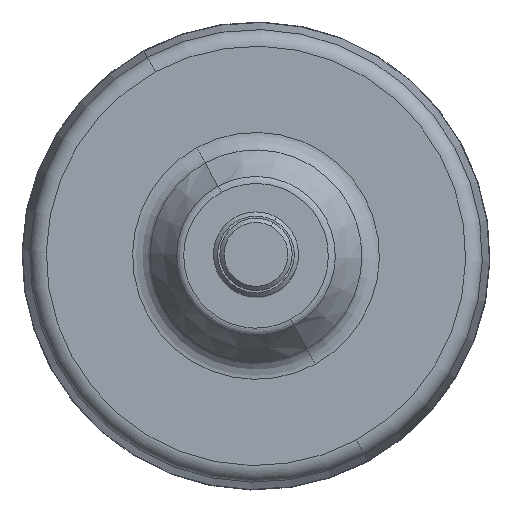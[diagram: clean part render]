
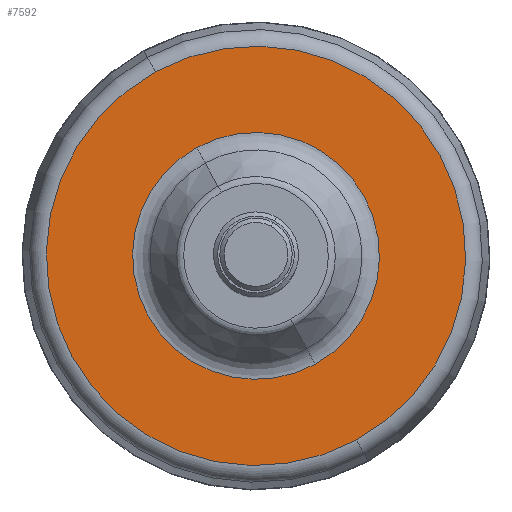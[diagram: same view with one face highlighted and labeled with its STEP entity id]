
A CAD part, top view. The second image highlights one B-rep face of the part: STEP entity #7592.
In plain terms, the highlighted planar face has unit normal (0, 0, 1).
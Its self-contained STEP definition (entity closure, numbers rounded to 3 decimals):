
#7519=CARTESIAN_POINT('Vertex',(-23.624,43.244,15.)) ;
#7533=CARTESIAN_POINT('Vertex',(23.624,-43.244,15.)) ;
#7536=CARTESIAN_POINT('Axis2P3D Location',(0.,0.,15.)) ;
#7553=CARTESIAN_POINT('Axis2P3D Location',(0.,0.,15.)) ;
#7565=CARTESIAN_POINT('Axis2P3D Location',(0.,29.,15.)) ;
#7574=CARTESIAN_POINT('Axis2P3D Location',(0.,0.,15.)) ;
#7578=CARTESIAN_POINT('Vertex',(-13.903,25.45,15.)) ;
#7580=CARTESIAN_POINT('Vertex',(13.903,-25.45,15.)) ;
#7583=CARTESIAN_POINT('Axis2P3D Location',(0.,0.,15.)) ;
#7537=DIRECTION('Axis2P3D Direction',(0.,0.,1.)) ;
#7554=DIRECTION('Axis2P3D Direction',(0.,0.,1.)) ;
#7566=DIRECTION('Axis2P3D Direction',(0.,0.,1.)) ;
#7567=DIRECTION('Axis2P3D XDirection',(1.,0.,0.)) ;
#7575=DIRECTION('Axis2P3D Direction',(0.,0.,1.)) ;
#7584=DIRECTION('Axis2P3D Direction',(0.,0.,1.)) ;
#7538=AXIS2_PLACEMENT_3D('Circle Axis2P3D',#7536,#7537,$) ;
#7555=AXIS2_PLACEMENT_3D('Circle Axis2P3D',#7553,#7554,$) ;
#7568=AXIS2_PLACEMENT_3D('Plane Axis2P3D',#7565,#7566,#7567) ;
#7576=AXIS2_PLACEMENT_3D('Circle Axis2P3D',#7574,#7575,$) ;
#7585=AXIS2_PLACEMENT_3D('Circle Axis2P3D',#7583,#7584,$) ;
#7571=ORIENTED_EDGE('',*,*,#7557,.T.) ;
#7572=ORIENTED_EDGE('',*,*,#7540,.T.) ;
#7589=ORIENTED_EDGE('',*,*,#7582,.F.) ;
#7590=ORIENTED_EDGE('',*,*,#7587,.F.) ;
#7591=FACE_BOUND('',#7588,.T.) ;
#7592=ADVANCED_FACE('PartBody',(#7573,#7591),#7569,.T.) ;
#7539=CIRCLE('generated circle',#7538,49.276) ;
#7556=CIRCLE('generated circle',#7555,49.276) ;
#7577=CIRCLE('generated circle',#7576,29.) ;
#7586=CIRCLE('generated circle',#7585,29.) ;
#7540=EDGE_CURVE('',#7520,#7534,#7539,.T.) ;
#7557=EDGE_CURVE('',#7534,#7520,#7556,.T.) ;
#7582=EDGE_CURVE('',#7579,#7581,#7577,.T.) ;
#7587=EDGE_CURVE('',#7581,#7579,#7586,.T.) ;
#7570=EDGE_LOOP('',(#7571,#7572)) ;
#7588=EDGE_LOOP('',(#7589,#7590)) ;
#7573=FACE_OUTER_BOUND('',#7570,.T.) ;
#7569=PLANE('',#7568) ;
#7520=VERTEX_POINT('',#7519) ;
#7534=VERTEX_POINT('',#7533) ;
#7579=VERTEX_POINT('',#7578) ;
#7581=VERTEX_POINT('',#7580) ;
